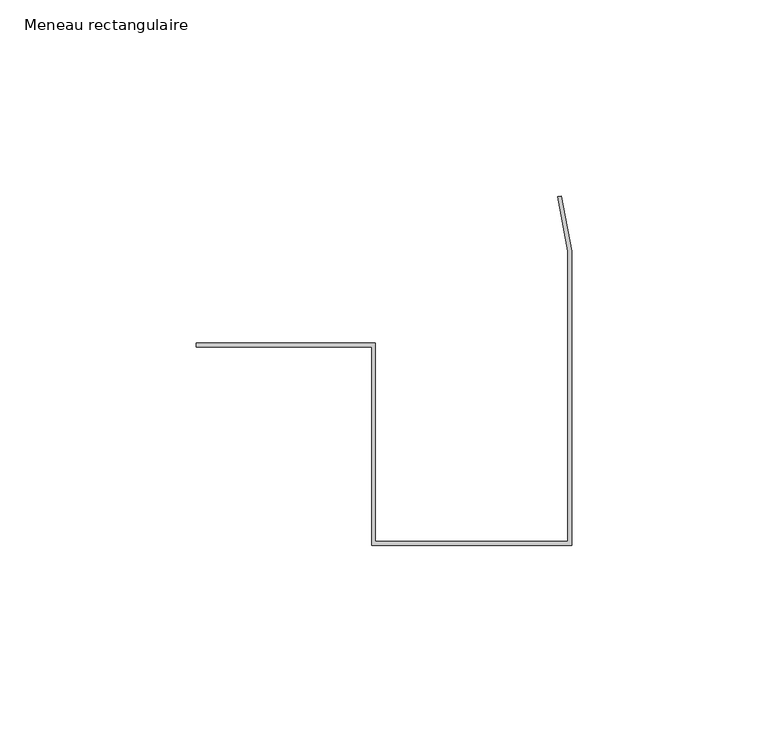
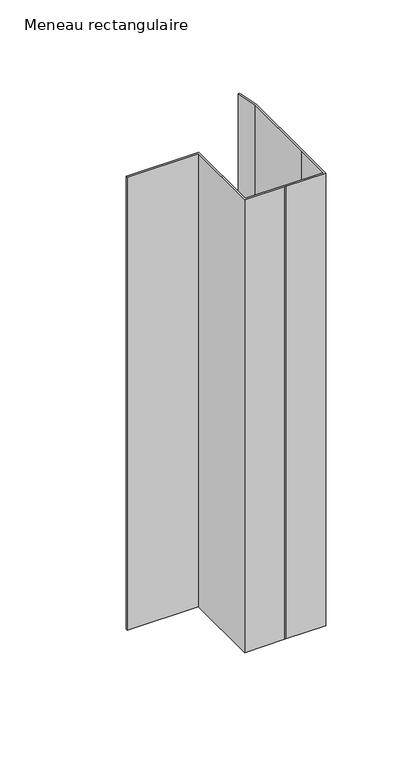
"""IFC4 building model written with IfcOpenShell, lengths in millimetres: member geometry, Meneau rectangulaire : Jonction contre mur Gauche H."""

import ifcopenshell
import ifcopenshell.guid

model = None  # the IFC model being written
_history = None  # IfcOwnerHistory: only IFC2X3 demands one
_inside = {}  # id of a spatial element -> (the spatial element, [elements in it])
_under = {}  # id of a project, library or spatial element -> (it, [spatial elements below it])
_declared = {}  # id of a project -> (the project, [libraries it declares])
_typed = {}  # id of a type object -> (the type object, [elements of that type])
_made_of = {}  # id of a material, layer set ... -> (it, [elements and type objects made of it])


def new_model(schema):
    """Start an empty IFC model of exactly this schema.

    Asked for "IFC4X3", IfcOpenShell would pick the latest addendum, in which some entities
    have other attributes; the version numbers below select the first issue.
    IFC2X3 requires an IfcOwnerHistory on every rooted entity: one is made here for all.
    """
    global model, _history
    if schema == "IFC4X3":
        model = ifcopenshell.file(schema_version=(4, 3, 0, 0))
    else:
        model = ifcopenshell.file(schema=schema)
    _inside.clear()
    _under.clear()
    _declared.clear()
    _typed.clear()
    _made_of.clear()
    _history = None
    if model.schema == "IFC2X3":
        org = make("IfcOrganization", Name="unknown")
        user = make(
            "IfcPersonAndOrganization",
            ThePerson=make("IfcPerson", FamilyName="unknown"),
            TheOrganization=org,
        )
        app = make(
            "IfcApplication",
            ApplicationDeveloper=org,
            Version="unknown",
            ApplicationFullName="unknown",
            ApplicationIdentifier="unknown",
        )
        _history = make(
            "IfcOwnerHistory",
            OwningUser=user,
            OwningApplication=app,
            ChangeAction="ADDED",
            CreationDate=0,
        )
    return model


def make(cls, **values):
    """One entity of the class cls with the attributes given. An attribute that is None is left unset."""
    return model.create_entity(
        cls, **{name: value for name, value in values.items() if value is not None}
    )


def rooted(cls, **values):
    """An entity with a GlobalId (a new one), such as an element, a storey or a relation."""
    return make(cls, GlobalId=ifcopenshell.guid.new(), OwnerHistory=_history, **values)


def si_unit(unit_type, name, prefix=None):
    """IfcSIUnit, for example si_unit("LENGTHUNIT", "METRE", prefix="MILLI")."""
    return make("IfcSIUnit", UnitType=unit_type, Prefix=prefix, Name=name)


def assignment(units):
    """IfcUnitAssignment: the units of a project."""
    return None if units is None else make("IfcUnitAssignment", Units=units)


def point(xyz):
    """IfcCartesianPoint."""
    return None if xyz is None else make("IfcCartesianPoint", Coordinates=xyz)


def direction(xyz):
    """IfcDirection."""
    return None if xyz is None else make("IfcDirection", DirectionRatios=xyz)


def frame(location, z_axis=None, x_axis=None):
    """IfcAxis2Placement3D, a coordinate frame: its origin and axes. An axis left out is left unset."""
    return make(
        "IfcAxis2Placement3D",
        Location=point(location),
        Axis=direction(z_axis),
        RefDirection=direction(x_axis),
    )


def origin():
    """The frame at (0, 0, 0) with its axes left unset."""
    return frame((0.0, 0.0, 0.0))


def place(relative_to, where):
    """IfcLocalPlacement: puts the frame where relative to a parent placement (None: the world)."""
    return make(
        "IfcLocalPlacement", PlacementRelTo=relative_to, RelativePlacement=where
    )


def context(
    kind, dimensions, precision=None, world=None, true_north=None, identifier=None
):
    """IfcGeometricRepresentationContext, for example the 3D "Model" context."""
    return make(
        "IfcGeometricRepresentationContext",
        ContextIdentifier=identifier,
        ContextType=kind,
        CoordinateSpaceDimension=dimensions,
        Precision=precision,
        WorldCoordinateSystem=world,
        TrueNorth=true_north,
    )


def project(units=None, contexts=None):
    """IfcProject with its units and contexts."""
    return rooted(
        "IfcProject",
        Name="project",
        RepresentationContexts=contexts,
        UnitsInContext=assignment(units),
    )


def spatial(cls, under=None, at=None, **own):
    """A site, building, storey or space (cls), placed at a placement, below another one or the project."""
    s = rooted(cls, ObjectPlacement=at, **own)
    if under is not None:
        _under.setdefault(under.id(), (under, []))[1].append(s)
    return s


def polyline(points):
    """IfcPolyline through the points."""
    return make("IfcPolyline", Points=[point(p) for p in points])


def outline(outer, holes=None, kind="AREA"):
    """IfcArbitraryClosedProfileDef: a profile drawn as a closed curve; with holes, ...WithVoids."""
    if holes is None:
        return make("IfcArbitraryClosedProfileDef", ProfileType=kind, OuterCurve=outer)
    return make(
        "IfcArbitraryProfileDefWithVoids",
        ProfileType=kind,
        OuterCurve=outer,
        InnerCurves=holes,
    )


def extrude(swept, where, along, depth):
    """IfcExtrudedAreaSolid: the profile swept, set in the frame where, extruded along a direction by depth."""
    return make(
        "IfcExtrudedAreaSolid",
        SweptArea=swept,
        Position=where,
        ExtrudedDirection=direction(along),
        Depth=depth,
    )


def shape(context_of_items, identifier, shape_type, items):
    """IfcShapeRepresentation: the items that make up one representation, for example the "Body"."""
    return make(
        "IfcShapeRepresentation",
        ContextOfItems=context_of_items,
        RepresentationIdentifier=identifier,
        RepresentationType=shape_type,
        Items=items,
    )


def source(mapping_origin, context_of_items, identifier, shape_type, items):
    """IfcRepresentationMap: a shape defined once, which mapped items show again and again."""
    return make(
        "IfcRepresentationMap",
        MappingOrigin=mapping_origin,
        MappedRepresentation=shape(context_of_items, identifier, shape_type, items),
    )


def transform(
    local_origin,
    x_axis=None,
    y_axis=None,
    z_axis=None,
    scale=None,
    scale2=None,
    scale3=None,
    uniform=True,
):
    """IfcCartesianTransformationOperator3D, or its non-uniform kind. x_axis, y_axis, z_axis: its Axis1, 2, 3."""
    if uniform:
        return make(
            "IfcCartesianTransformationOperator3D",
            Axis1=direction(x_axis),
            Axis2=direction(y_axis),
            LocalOrigin=point(local_origin),
            Scale=scale,
            Axis3=direction(z_axis),
        )
    return make(
        "IfcCartesianTransformationOperator3DnonUniform",
        Axis1=direction(x_axis),
        Axis2=direction(y_axis),
        LocalOrigin=point(local_origin),
        Scale=scale,
        Axis3=direction(z_axis),
        Scale2=scale2,
        Scale3=scale3,
    )


def mapped(mapping_source, mapping_target):
    """IfcMappedItem: shows the shape of a source again, moved by a transform."""
    return make(
        "IfcMappedItem", MappingSource=mapping_source, MappingTarget=mapping_target
    )


def made_of(thing, what):
    """Note that an element or type object is made of a material, layer set ...; save() writes the relation."""
    if what is not None:
        _made_of.setdefault(what.id(), (what, []))[1].append(thing)
    return thing


def element(
    cls,
    number,
    at=None,
    inside=None,
    cuts=None,
    type_object=None,
    material=None,
    context=None,
    identifier="Body",
    shape_type=None,
    held_by="IfcProductDefinitionShape",
    body=None,
    shapes=None,
    **own,
):
    """One element of the class cls, such as IfcWall. Its Tag is "e" and its number.

    at: its placement. inside: the storey or other place that contains it. cuts: it is an
    opening in that element (IfcRelVoidsElement). A single representation is given by context,
    identifier, shape_type and body (its items); several are given by shapes. held_by: the class
    of the entity that holds the representations. save() writes the other relations.
    """
    e = rooted(cls, Tag="e%d" % number, ObjectPlacement=at, **own)
    if body is not None:
        shapes = [shape(context, identifier, shape_type, body)]
    if shapes is not None:
        e.Representation = make(held_by, Representations=shapes)
    if inside is not None:
        _inside.setdefault(inside.id(), (inside, []))[1].append(e)
    if cuts is not None:
        rooted(
            "IfcRelVoidsElement", RelatingBuildingElement=cuts, RelatedOpeningElement=e
        )
    if type_object is not None:
        _typed.setdefault(type_object.id(), (type_object, []))[1].append(e)
    return made_of(e, material)


def aggregate(whole, parts):
    """IfcRelAggregates: a whole, such as a stair, and the parts it consists of."""
    return rooted("IfcRelAggregates", RelatingObject=whole, RelatedObjects=parts)


def save(model, path):
    """Write the relations noted so far, then the file.

    IfcRelAggregates (storeys below a building ...), IfcRelContainedInSpatialStructure (elements
    in a storey), IfcRelDefinesByType, IfcRelAssociatesMaterial and IfcRelDeclares: one each for
    every whole, place, type object, material and project.
    """
    for whole, parts in _under.values():
        aggregate(whole, parts)
    for where, things in _inside.values():
        rooted(
            "IfcRelContainedInSpatialStructure",
            RelatedElements=things,
            RelatingStructure=where,
        )
    for kind, things in _typed.values():
        rooted("IfcRelDefinesByType", RelatedObjects=things, RelatingType=kind)
    for what, things in _made_of.values():
        rooted("IfcRelAssociatesMaterial", RelatedObjects=things, RelatingMaterial=what)
    for by, libraries in _declared.values():
        rooted("IfcRelDeclares", RelatingContext=by, RelatedDefinitions=libraries)
    model.write(path)


def meneau_rectangulaire_ebad5e87(model_context):
    return source(origin(), model_context, "Body", "SweptSolid", [
        extrude(outline(polyline([(-1.0, 26.3950161), (-3.6043568, 40.2612876), (-2.6384309, 40.4427073), (0.0, 26.3950161), (0.0, -23.6049839), (0.0, -48.6049839), (-25.0, -48.6049839), (-26.0, -48.6049839), (-51.0, -48.6049839), (-51.0, 2.0), (-95.6686418, 2.0), (-95.6686418, 3.0), (-50.0, 3.0), (-50.0, -47.6049839), (-26.0, -47.6049839), (-25.0, -47.6049839), (-1.0, -47.6049839), (-1.0, -23.6049839), (-1.0, 26.3950161)])), frame((0.0, 0.0, -301.0), z_axis=(0.0, 0.0, 1.0), x_axis=(1.0, 0.0, 0.0)), (0.0, 0.0, 1.0), 301.0),
    ])


if __name__ == "__main__":
    model = new_model("IFC4")
    model_context = context("Model", 3, world=origin())
    ifc_project = project(units=[si_unit("LENGTHUNIT", "METRE", prefix="MILLI")], contexts=[model_context])
    site = spatial("IfcSite", under=ifc_project)
    building = spatial("IfcBuilding", under=site)
    placement = place(None, origin())
    meneau_rectangulaire_shape = meneau_rectangulaire_ebad5e87(model_context)
    element("IfcMember", 1, ObjectType="Meneau rectangulaire : Jonction contre mur Gauche H", at=placement, inside=building, context=model_context, shape_type="MappedRepresentation", body=[
        mapped(meneau_rectangulaire_shape, transform((0.0, 0.0, 0.0), x_axis=(1.0, 0.0, 0.0), y_axis=(0.0, 1.0, 0.0), z_axis=(0.0, 0.0, 1.0))),
    ])
    save(model, "model.ifc")
